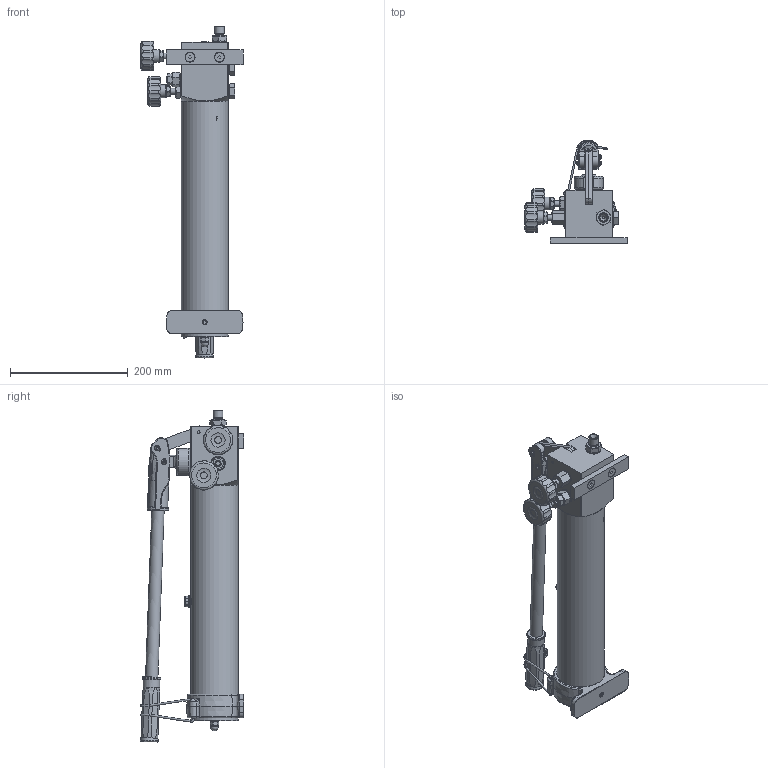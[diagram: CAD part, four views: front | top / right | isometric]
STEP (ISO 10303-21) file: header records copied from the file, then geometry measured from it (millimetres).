
FILE_DESCRIPTION(/* description */ ('Unknown'),/* implementation_level */ '2;1');
FILE_NAME(/* name */ 'GL2P-Q150',/* time_stamp */ '2024-04-22T12:15:01+02:00',/* author */ ('Unknown'),/* organization */ ('Unknown'),/* preprocessor_version */ 'ST-DEVELOPER v19.4',/* originating_system */ 'Solid Edge',/* authorisation */ 'Unknown');
FILE_SCHEMA (('AUTOMOTIVE_DESIGN {1 0 10303 214 3 1 1}'));
Length unit declared in the file: millimetre
Products named in the file (1): GL2P-Q150
Bounding box: 173.3 x 176.43 x 563.91 mm (x, y, z)
Surface area: 298345 mm2 (no closed solid volume)
Topology: 0 solids, 52 shells, 722 faces, 2319 edges, 1591 vertices
Faces by surface type: plane 225, cylinder 214, torus 107, bspline 102, cone 69, sphere 5
Full cylindrical faces by diameter (mm): 3 x5, 4 x1, 5 x1, 8 x6, 8.5 x1, 10 x3, 12.806 x1, 13 x1, 13.515 x1, 16 x2, 16.436 x1, 17 x2, 18 x1, 20 x1, 21 x5, 21.7 x1, 22 x4, 23.5 x2, 25 x1, 28 x1, 31.5 x1, 38 x2, 42 x1, 80 x2, 80.1 x1
Entity records: 33333 total; most frequent: CARTESIAN_POINT 14282, DIRECTION 3649, ORIENTED_EDGE 3494, EDGE_CURVE 2163, VERTEX_POINT 1558, AXIS2_PLACEMENT_3D 1448, EDGE_LOOP 927, FACE_BOUND 927
